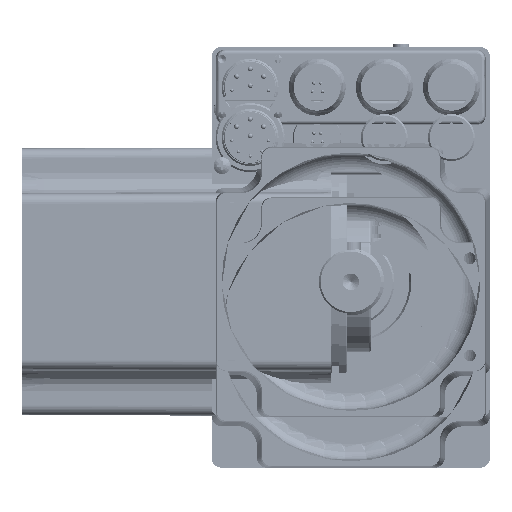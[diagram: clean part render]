
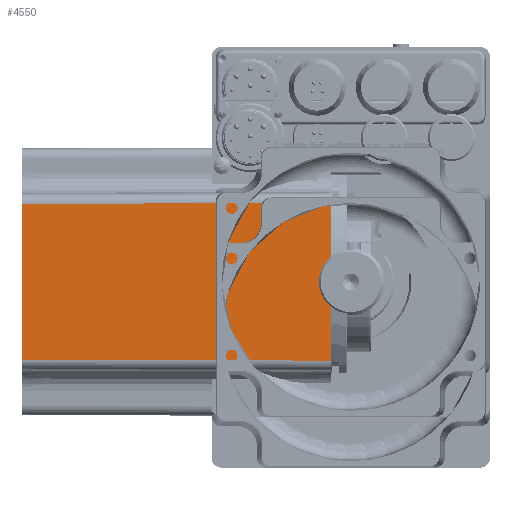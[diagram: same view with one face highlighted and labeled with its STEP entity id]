
A CAD part, front view. The second image highlights one B-rep face of the part: STEP entity #4550.
In plain terms, the highlighted planar face has unit normal (-0.003, -1, 0).
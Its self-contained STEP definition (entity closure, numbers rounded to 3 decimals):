
#4550 = ADVANCED_FACE( '', ( #9557 ), #9558, .T. );
#9557 = FACE_OUTER_BOUND( '', #23962, .T. );
#9558 = PLANE( '', #23963 );
#23962 = EDGE_LOOP( '', ( #34816, #34817, #34818, #34819 ) );
#23963 = AXIS2_PLACEMENT_3D( '', #34820, #34821, #34822 );
#34816 = ORIENTED_EDGE( '', *, *, #38666, .T. );
#34817 = ORIENTED_EDGE( '', *, *, #40823, .T. );
#34818 = ORIENTED_EDGE( '', *, *, #40656, .T. );
#34819 = ORIENTED_EDGE( '', *, *, #40824, .T. );
#34820 = CARTESIAN_POINT( '', ( -5., -40., 0. ) );
#34821 = DIRECTION( '', ( -0.003, -1., 0. ) );
#34822 = DIRECTION( '', ( 1., -0.003, 0. ) );
#38666 = EDGE_CURVE( '', #44153, #44151, #44154, .T. );
#40656 = EDGE_CURVE( '', #46959, #46960, #46961, .T. );
#40823 = EDGE_CURVE( '', #44151, #46959, #47147, .T. );
#40824 = EDGE_CURVE( '', #46960, #44153, #47148, .T. );
#44151 = VERTEX_POINT( '', #58319 );
#44153 = VERTEX_POINT( '', #58321 );
#44154 = LINE( '', #58322, #58323 );
#46959 = VERTEX_POINT( '', #63129 );
#46960 = VERTEX_POINT( '', #63130 );
#46961 = LINE( '', #63131, #63132 );
#47147 = LINE( '', #63414, #63415 );
#47148 = LINE( '', #63416, #63417 );
#58319 = CARTESIAN_POINT( '', ( -6., -39.997, -23.497 ) );
#58321 = CARTESIAN_POINT( '', ( -98., -39.729, -23.229 ) );
#58322 = CARTESIAN_POINT( '', ( -4.991, -40., -23.5 ) );
#58323 = VECTOR( '', #67306, 1000. );
#63129 = CARTESIAN_POINT( '', ( -6., -39.997, 23.497 ) );
#63130 = CARTESIAN_POINT( '', ( -98., -39.729, 23.229 ) );
#63131 = CARTESIAN_POINT( '', ( -98.991, -39.727, 23.227 ) );
#63132 = VECTOR( '', #69802, 1000. );
#63414 = CARTESIAN_POINT( '', ( -6., -39.997, 0. ) );
#63415 = VECTOR( '', #69918, 1000. );
#63416 = CARTESIAN_POINT( '', ( -98., -39.729, 0. ) );
#63417 = VECTOR( '', #69919, 1000. );
#67306 = DIRECTION( '', ( 1., -0.003, -0.003 ) );
#69802 = DIRECTION( '', ( -1., 0.003, -0.003 ) );
#69918 = DIRECTION( '', ( 0., 0., 1. ) );
#69919 = DIRECTION( '', ( 0., 0., -1. ) );
